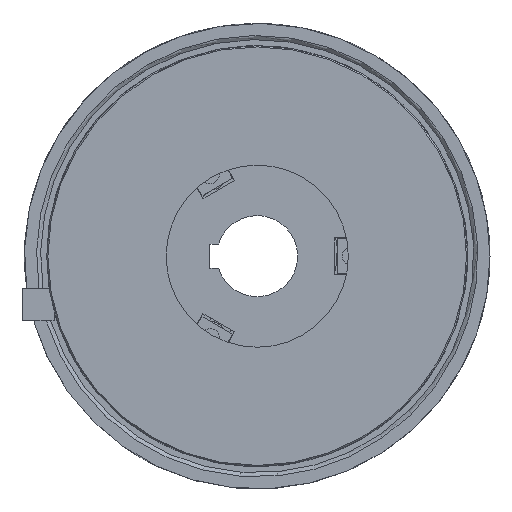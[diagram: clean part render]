
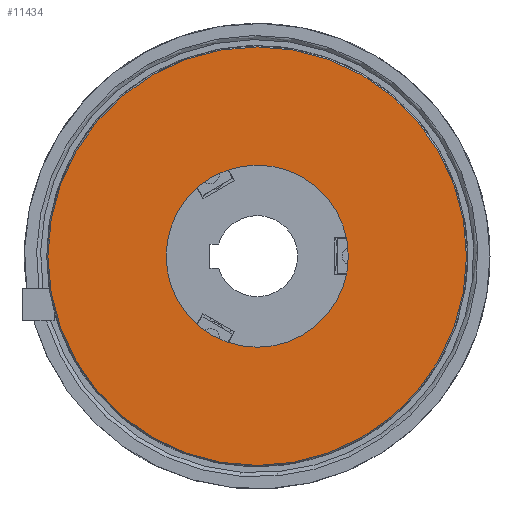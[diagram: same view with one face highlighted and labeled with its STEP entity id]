
A CAD part, left-side view. The second image highlights one B-rep face of the part: STEP entity #11434.
In plain terms, the highlighted planar face has unit normal (-1, 0, 0).
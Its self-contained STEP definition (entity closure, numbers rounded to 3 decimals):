
#1023=FACE_BOUND('',#4132,.T.);
#1297=PLANE('',#12704);
#3395=FACE_OUTER_BOUND('',#4131,.T.);
#4131=EDGE_LOOP('',(#10790));
#4132=EDGE_LOOP('',(#10791));
#4795=CIRCLE('',#12693,51.7);
#4805=CIRCLE('',#12705,22.5);
#5948=VERTEX_POINT('',#24485);
#5964=VERTEX_POINT('',#24521);
#7560=EDGE_CURVE('',#5948,#5948,#4795,.T.);
#7578=EDGE_CURVE('',#5964,#5964,#4805,.T.);
#10790=ORIENTED_EDGE('',*,*,#7560,.F.);
#10791=ORIENTED_EDGE('',*,*,#7578,.F.);
#11434=ADVANCED_FACE('',(#3395,#1023),#1297,.T.);
#12693=AXIS2_PLACEMENT_3D('',#24486,#15780,#15781);
#12704=AXIS2_PLACEMENT_3D('',#24520,#15810,#15811);
#12705=AXIS2_PLACEMENT_3D('',#24522,#15812,#15813);
#15780=DIRECTION('center_axis',(1.,0.,0.));
#15781=DIRECTION('ref_axis',(0.,1.,0.));
#15810=DIRECTION('center_axis',(-1.,0.,0.));
#15811=DIRECTION('ref_axis',(0.,0.,
-1.));
#15812=DIRECTION('center_axis',(-1.,0.,0.));
#15813=DIRECTION('ref_axis',(0.,-1.,0.));
#24485=CARTESIAN_POINT('',(-85.,-51.7,0.));
#24486=CARTESIAN_POINT('Origin',(-85.,0.,0.));
#24520=CARTESIAN_POINT('Origin',(-85.,-37.25,0.));
#24521=CARTESIAN_POINT('',(-85.,22.5,0.));
#24522=CARTESIAN_POINT('Origin',(-85.,0.,0.));
